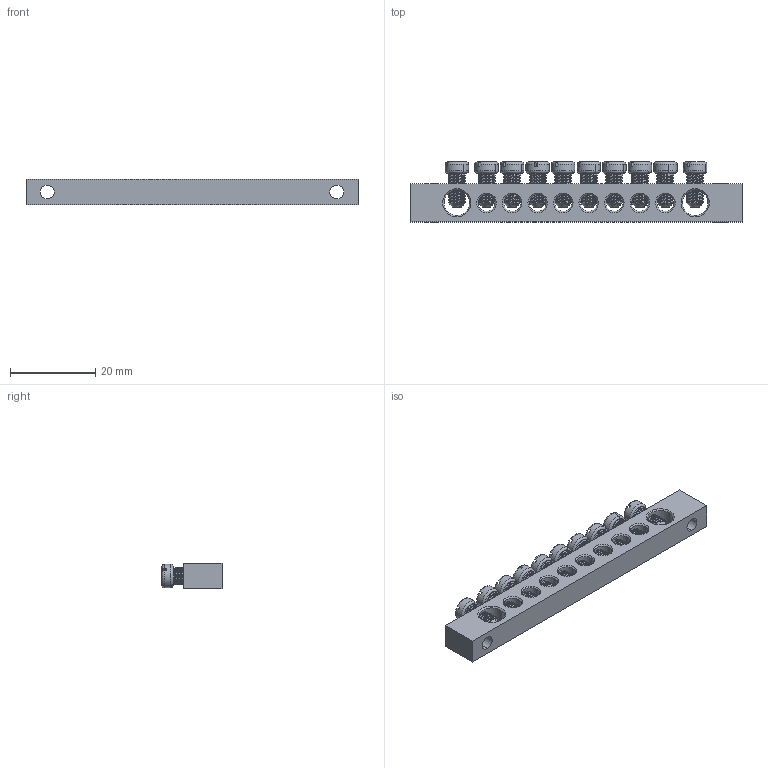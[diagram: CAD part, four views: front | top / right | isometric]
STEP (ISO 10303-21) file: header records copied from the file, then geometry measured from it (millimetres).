
FILE_DESCRIPTION (( 'STEP AP214' ), '1' );
FILE_NAME ('277988 OptiKit BB-PEN-S-10-6õ9-2.STEP', '2020-02-07T06:35:18', ( '' ), ( '' ), 'SwSTEP 2.0', 'SolidWorks 2018', '' );
FILE_SCHEMA (( 'AUTOMOTIVE_DESIGN' ));
Length unit declared in the file: millimetre
Products named in the file (3): 277988 OptiKit BB-PEN-S-10-6õ9-2; Âèíò ì4; Øèíà 6õ9 10 2
Assembly tree (11 placements, depth 2):
  277988 OptiKit BB-PEN-S-10-6õ9-2
    Øèíà 6õ9 10 2
    Âèíò ì4  x10
Bounding box: 78 x 14.1 x 6 mm (x, y, z)
Volume: 4271.8 mm3; surface area: 5427.6 mm2
Topology: 11 solids, 11 shells, 790 faces, 2194 edges, 1416 vertices
Faces by surface type: plane 276, cylinder 274, cone 130, torus 70, bspline 40
Entity records: 7819 total; most frequent: CARTESIAN_POINT 3514, ORIENTED_EDGE 838, DIRECTION 798, EDGE_CURVE 419, AXIS2_PLACEMENT_3D 315, VERTEX_POINT 264, EDGE_LOOP 205, VECTOR 168
